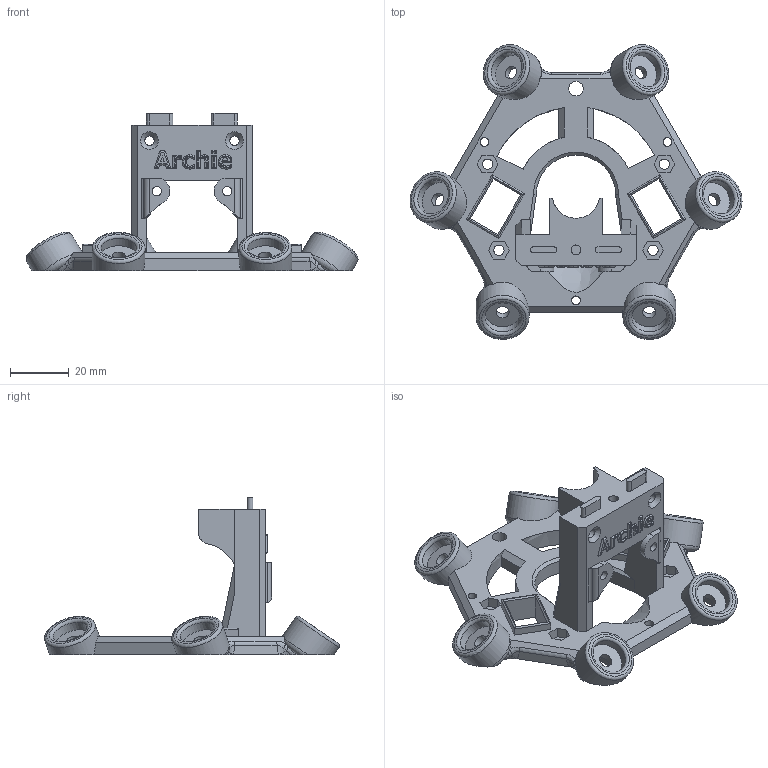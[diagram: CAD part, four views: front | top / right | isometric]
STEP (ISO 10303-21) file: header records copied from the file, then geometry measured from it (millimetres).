
FILE_DESCRIPTION(/* description */ (''),/* implementation_level */ '2;1');
FILE_NAME(/* name */ 'D:\3D печать\Мои проекты\Archy MK 2\STEP\эффектор.stp',/* time_stamp */ '2019-03-20T22:02:34+06:00',/* author */ ('Пользователь'),/* organization */ (''),/* preprocessor_version */ 'ST-DEVELOPER v16.5',/* originating_system */ 'Autodesk Inventor 2017',/* authorisation */ '');
FILE_SCHEMA (('AUTOMOTIVE_DESIGN { 1 0 10303 214 3 1 1 }'));
Length unit declared in the file: millimetre
Products named in the file (1): эффектор
Bounding box: 113.13 x 100.45 x 53.5 mm (x, y, z)
Volume: 42696.6 mm3; surface area: 23222.4 mm2
Topology: 1 solids, 1 shells, 371 faces, 963 edges, 621 vertices
Faces by surface type: plane 185, cylinder 99, bspline 66, torus 18, cone 3
Full cylindrical faces by diameter (mm): 3 x3, 3.1 x4, 3.2 x2, 3.3 x1, 3.5 x4, 4.5 x6, 5 x1, 12.15 x6, 18 x6
Entity records: 13418 total; most frequent: CARTESIAN_POINT 4743, ORIENTED_EDGE 1814, DIRECTION 1622, EDGE_CURVE 907, VERTEX_POINT 613, AXIS2_PLACEMENT_3D 567, EDGE_LOOP 494, LINE 488
